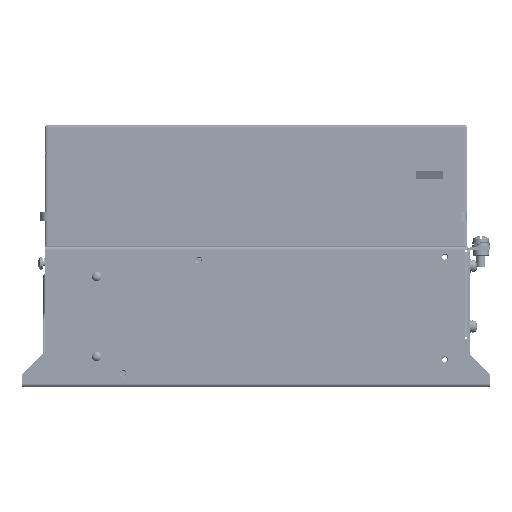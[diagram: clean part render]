
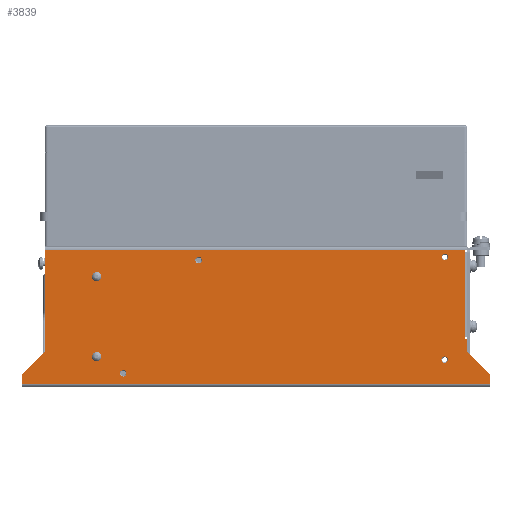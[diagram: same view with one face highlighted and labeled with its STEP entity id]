
A CAD part, left-side view. The second image highlights one B-rep face of the part: STEP entity #3839.
In plain terms, the highlighted planar face has unit normal (-1, 0, 0).
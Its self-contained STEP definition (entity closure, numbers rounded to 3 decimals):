
#142=DIRECTION('',(0.,0.,-1.));
#143=VECTOR('',#142,1.5);
#144=CARTESIAN_POINT('',(-85.,-138.5,91.));
#145=LINE('',#144,#143);
#146=DIRECTION('',(0.,0.,-1.));
#147=VECTOR('',#146,1.5);
#148=CARTESIAN_POINT('',(-85.,-138.5,33.));
#149=LINE('',#148,#147);
#150=DIRECTION('',(0.,1.,0.));
#151=VECTOR('',#150,1.5);
#152=CARTESIAN_POINT('',(-85.,-140.,31.5));
#153=LINE('',#152,#151);
#154=DIRECTION('',(0.,0.,-1.));
#155=VECTOR('',#154,8.5);
#156=CARTESIAN_POINT('',(-85.,-140.,31.5));
#157=LINE('',#156,#155);
#158=DIRECTION('',(0.,-0.707,-0.707));
#159=VECTOR('',#158,21.213);
#160=CARTESIAN_POINT('',(-85.,-140.,23.));
#161=LINE('',#160,#159);
#162=DIRECTION('',(0.,-0.707,0.707));
#163=VECTOR('',#162,21.213);
#164=CARTESIAN_POINT('',(-85.,155.,8.));
#165=LINE('',#164,#163);
#166=DIRECTION('',(0.,0.,-1.));
#167=VECTOR('',#166,68.);
#168=CARTESIAN_POINT('',(-85.,140.,91.));
#169=LINE('',#168,#167);
#170=CARTESIAN_POINT('',(-85.,105.5,73.));
#171=DIRECTION('',(1.,0.,0.));
#172=DIRECTION('',(0.,1.,0.));
#173=AXIS2_PLACEMENT_3D('',#170,#171,#172);
#175=CARTESIAN_POINT('',(-85.,105.5,73.));
#176=DIRECTION('',(1.,0.,0.));
#177=DIRECTION('',(0.,-1.,0.));
#178=AXIS2_PLACEMENT_3D('',#175,#176,#177);
#180=CARTESIAN_POINT('',(-85.,105.5,20.));
#181=DIRECTION('',(1.,0.,0.));
#182=DIRECTION('',(0.,1.,0.));
#183=AXIS2_PLACEMENT_3D('',#180,#181,#182);
#185=CARTESIAN_POINT('',(-85.,105.5,20.));
#186=DIRECTION('',(1.,0.,0.));
#187=DIRECTION('',(0.,-1.,0.));
#188=AXIS2_PLACEMENT_3D('',#185,#186,#187);
#190=CARTESIAN_POINT('',(-85.,38.,84.));
#191=DIRECTION('',(-1.,0.,0.));
#192=DIRECTION('',(0.,-1.,0.));
#193=AXIS2_PLACEMENT_3D('',#190,#191,#192);
#195=CARTESIAN_POINT('',(-85.,38.,84.));
#196=DIRECTION('',(-1.,0.,0.));
#197=DIRECTION('',(0.,1.,0.));
#198=AXIS2_PLACEMENT_3D('',#195,#196,#197);
#200=CARTESIAN_POINT('',(-85.,88.,9.));
#201=DIRECTION('',(-1.,0.,0.));
#202=DIRECTION('',(0.,-1.,0.));
#203=AXIS2_PLACEMENT_3D('',#200,#201,#202);
#205=CARTESIAN_POINT('',(-85.,88.,9.));
#206=DIRECTION('',(-1.,0.,0.));
#207=DIRECTION('',(0.,1.,0.));
#208=AXIS2_PLACEMENT_3D('',#205,#206,#207);
#210=CARTESIAN_POINT('',(-85.,-125.,18.));
#211=DIRECTION('',(-1.,0.,0.));
#212=DIRECTION('',(0.,-1.,0.));
#213=AXIS2_PLACEMENT_3D('',#210,#211,#212);
#215=CARTESIAN_POINT('',(-85.,-125.,18.));
#216=DIRECTION('',(-1.,0.,0.));
#217=DIRECTION('',(0.,1.,0.));
#218=AXIS2_PLACEMENT_3D('',#215,#216,#217);
#220=CARTESIAN_POINT('',(-85.,-125.,86.));
#221=DIRECTION('',(-1.,0.,0.));
#222=DIRECTION('',(0.,-1.,0.));
#223=AXIS2_PLACEMENT_3D('',#220,#221,#222);
#225=CARTESIAN_POINT('',(-85.,-125.,86.));
#226=DIRECTION('',(-1.,0.,0.));
#227=DIRECTION('',(0.,1.,0.));
#228=AXIS2_PLACEMENT_3D('',#225,#226,#227);
#239=DIRECTION('',(0.,1.,0.));
#240=VECTOR('',#239,278.5);
#241=CARTESIAN_POINT('',(-85.,-138.5,91.));
#242=LINE('',#241,#240);
#1206=DIRECTION('',(0.,1.,0.));
#1207=VECTOR('',#1206,310.);
#1208=CARTESIAN_POINT('',(-85.,-155.,2.));
#1209=LINE('',#1208,#1207);
#1260=DIRECTION('',(0.,0.,1.));
#1261=VECTOR('',#1260,6.);
#1262=CARTESIAN_POINT('',(-85.,155.,2.));
#1263=LINE('',#1262,#1261);
#1366=DIRECTION('',(0.,0.,-1.));
#1367=VECTOR('',#1366,56.5);
#1368=CARTESIAN_POINT('',(-85.,-138.5,89.5));
#1369=LINE('',#1368,#1367);
#1584=DIRECTION('',(0.,0.,1.));
#1585=VECTOR('',#1584,6.);
#1586=CARTESIAN_POINT('',(-85.,-155.,2.));
#1587=LINE('',#1586,#1585);
#2886=CARTESIAN_POINT('',(-85.,-155.,2.));
#2887=CARTESIAN_POINT('',(-85.,155.,2.));
#2888=VERTEX_POINT('',#2886);
#2889=VERTEX_POINT('',#2887);
#2936=CARTESIAN_POINT('',(-85.,-140.,23.));
#2937=CARTESIAN_POINT('',(-85.,-155.,8.));
#2938=VERTEX_POINT('',#2936);
#2939=VERTEX_POINT('',#2937);
#2940=CARTESIAN_POINT('',(-85.,155.,8.));
#2941=CARTESIAN_POINT('',(-85.,140.,23.));
#2942=VERTEX_POINT('',#2940);
#2943=VERTEX_POINT('',#2941);
#2944=CARTESIAN_POINT('',(-85.,140.,91.));
#2945=VERTEX_POINT('',#2944);
#3010=CARTESIAN_POINT('',(-85.,-138.5,91.));
#3011=VERTEX_POINT('',#3010);
#3102=CARTESIAN_POINT('',(-85.,-138.5,33.));
#3103=CARTESIAN_POINT('',(-85.,-138.5,31.5));
#3104=VERTEX_POINT('',#3102);
#3105=VERTEX_POINT('',#3103);
#3106=CARTESIAN_POINT('',(-85.,-140.,31.5));
#3107=VERTEX_POINT('',#3106);
#3112=CARTESIAN_POINT('',(-85.,-138.5,89.5));
#3113=VERTEX_POINT('',#3112);
#3126=CARTESIAN_POINT('',(-85.,107.6,73.));
#3127=CARTESIAN_POINT('',(-85.,103.4,73.));
#3128=VERTEX_POINT('',#3126);
#3129=VERTEX_POINT('',#3127);
#3130=CARTESIAN_POINT('',(-85.,107.6,20.));
#3131=CARTESIAN_POINT('',(-85.,103.4,20.));
#3132=VERTEX_POINT('',#3130);
#3133=VERTEX_POINT('',#3131);
#3362=CARTESIAN_POINT('',(-85.,35.85,84.));
#3363=CARTESIAN_POINT('',(-85.,40.15,84.));
#3364=VERTEX_POINT('',#3362);
#3365=VERTEX_POINT('',#3363);
#3382=CARTESIAN_POINT('',(-85.,85.85,9.));
#3383=CARTESIAN_POINT('',(-85.,90.15,9.));
#3384=VERTEX_POINT('',#3382);
#3385=VERTEX_POINT('',#3383);
#3402=CARTESIAN_POINT('',(-85.,-127.15,18.));
#3403=CARTESIAN_POINT('',(-85.,-122.85,18.));
#3404=VERTEX_POINT('',#3402);
#3405=VERTEX_POINT('',#3403);
#3422=CARTESIAN_POINT('',(-85.,-127.15,86.));
#3423=CARTESIAN_POINT('',(-85.,-122.85,86.));
#3424=VERTEX_POINT('',#3422);
#3425=VERTEX_POINT('',#3423);
#3773=CARTESIAN_POINT('',(-85.,-155.,0.));
#3774=DIRECTION('',(-1.,0.,0.));
#3775=DIRECTION('',(0.,0.,1.));
#3776=AXIS2_PLACEMENT_3D('',#3773,#3774,#3775);
#3777=PLANE('',#3776);
#3779=ORIENTED_EDGE('',*,*,#3778,.F.);
#3781=ORIENTED_EDGE('',*,*,#3780,.T.);
#3783=ORIENTED_EDGE('',*,*,#3782,.T.);
#3785=ORIENTED_EDGE('',*,*,#3784,.T.);
#3787=ORIENTED_EDGE('',*,*,#3786,.F.);
#3788=ORIENTED_EDGE('',*,*,#3707,.T.);
#3790=ORIENTED_EDGE('',*,*,#3789,.T.);
#3792=ORIENTED_EDGE('',*,*,#3791,.F.);
#3794=ORIENTED_EDGE('',*,*,#3793,.T.);
#3796=ORIENTED_EDGE('',*,*,#3795,.T.);
#3798=ORIENTED_EDGE('',*,*,#3797,.T.);
#3800=ORIENTED_EDGE('',*,*,#3799,.F.);
#3801=EDGE_LOOP('',(#3779,#3781,#3783,#3785,#3787,#3788,#3790,#3792,#3794,#3796,
#3798,#3800));
#3802=FACE_OUTER_BOUND('',#3801,.F.);
#3804=ORIENTED_EDGE('',*,*,#3803,.F.);
#3806=ORIENTED_EDGE('',*,*,#3805,.F.);
#3807=EDGE_LOOP('',(#3804,#3806));
#3808=FACE_BOUND('',#3807,.F.);
#3810=ORIENTED_EDGE('',*,*,#3809,.F.);
#3812=ORIENTED_EDGE('',*,*,#3811,.F.);
#3813=EDGE_LOOP('',(#3810,#3812));
#3814=FACE_BOUND('',#3813,.F.);
#3816=ORIENTED_EDGE('',*,*,#3815,.T.);
#3818=ORIENTED_EDGE('',*,*,#3817,.T.);
#3819=EDGE_LOOP('',(#3816,#3818));
#3820=FACE_BOUND('',#3819,.F.);
#3822=ORIENTED_EDGE('',*,*,#3821,.T.);
#3824=ORIENTED_EDGE('',*,*,#3823,.T.);
#3825=EDGE_LOOP('',(#3822,#3824));
#3826=FACE_BOUND('',#3825,.F.);
#3828=ORIENTED_EDGE('',*,*,#3827,.T.);
#3830=ORIENTED_EDGE('',*,*,#3829,.T.);
#3831=EDGE_LOOP('',(#3828,#3830));
#3832=FACE_BOUND('',#3831,.F.);
#3834=ORIENTED_EDGE('',*,*,#3833,.T.);
#3836=ORIENTED_EDGE('',*,*,#3835,.T.);
#3837=EDGE_LOOP('',(#3834,#3836));
#3838=FACE_BOUND('',#3837,.F.);
#3839=ADVANCED_FACE('',(#3802,#3808,#3814,#3820,#3826,#3832,#3838),#3777,.T.);
#174=CIRCLE('',#173,2.1);
#179=CIRCLE('',#178,2.1);
#184=CIRCLE('',#183,2.1);
#189=CIRCLE('',#188,2.1);
#194=CIRCLE('',#193,2.15);
#199=CIRCLE('',#198,2.15);
#204=CIRCLE('',#203,2.15);
#209=CIRCLE('',#208,2.15);
#214=CIRCLE('',#213,2.15);
#219=CIRCLE('',#218,2.15);
#224=CIRCLE('',#223,2.15);
#229=CIRCLE('',#228,2.15);
#3707=EDGE_CURVE('',#3107,#2938,#157,.T.);
#3778=EDGE_CURVE('',#3011,#2945,#242,.T.);
#3780=EDGE_CURVE('',#3011,#3113,#145,.T.);
#3782=EDGE_CURVE('',#3113,#3104,#1369,.T.);
#3784=EDGE_CURVE('',#3104,#3105,#149,.T.);
#3786=EDGE_CURVE('',#3107,#3105,#153,.T.);
#3789=EDGE_CURVE('',#2938,#2939,#161,.T.);
#3791=EDGE_CURVE('',#2888,#2939,#1587,.T.);
#3793=EDGE_CURVE('',#2888,#2889,#1209,.T.);
#3795=EDGE_CURVE('',#2889,#2942,#1263,.T.);
#3797=EDGE_CURVE('',#2942,#2943,#165,.T.);
#3799=EDGE_CURVE('',#2945,#2943,#169,.T.);
#3803=EDGE_CURVE('',#3128,#3129,#174,.T.);
#3805=EDGE_CURVE('',#3129,#3128,#179,.T.);
#3809=EDGE_CURVE('',#3132,#3133,#184,.T.);
#3811=EDGE_CURVE('',#3133,#3132,#189,.T.);
#3815=EDGE_CURVE('',#3364,#3365,#194,.T.);
#3817=EDGE_CURVE('',#3365,#3364,#199,.T.);
#3821=EDGE_CURVE('',#3384,#3385,#204,.T.);
#3823=EDGE_CURVE('',#3385,#3384,#209,.T.);
#3827=EDGE_CURVE('',#3404,#3405,#214,.T.);
#3829=EDGE_CURVE('',#3405,#3404,#219,.T.);
#3833=EDGE_CURVE('',#3424,#3425,#224,.T.);
#3835=EDGE_CURVE('',#3425,#3424,#229,.T.);
